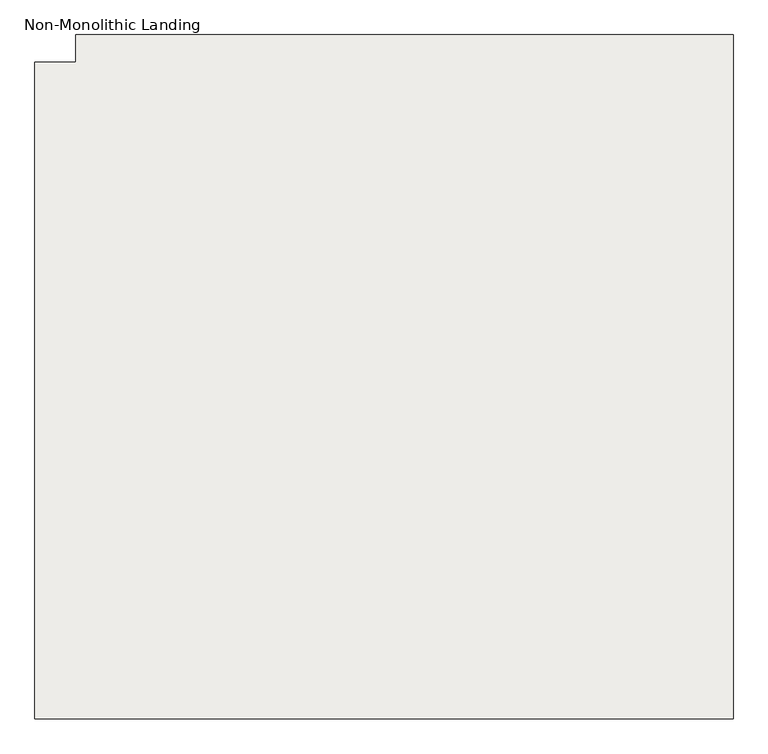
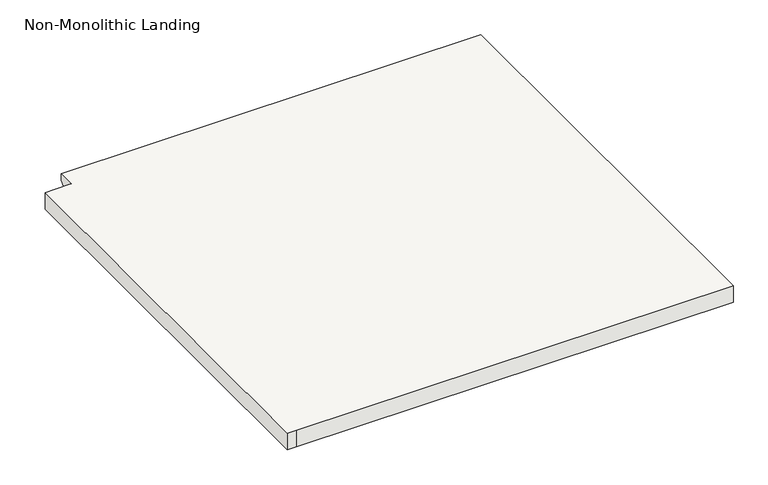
"""IFC4 building model written with IfcOpenShell, lengths in millimetres: slab geometry, Non-Monolithic Landing."""

from ifc_helpers import new_model, si_unit, origin, place, context, project, spatial, faceted_brep, source, transform, mapped, element, save


def non_monolithic_landing_3a4293be(model_context):
    return source(origin(), model_context, "Body", "Brep", [
        faceted_brep([(18450.2726301, 6379.9746638, 7296.15), (18450.2726301, 6379.9746638, 7315.2), (19669.4726301, 6379.9746638, 7315.2), (19669.4726301, 6379.9746638, 7296.15), (18450.2726301, 6354.5746638, 7270.75), (19669.4726301, 6354.5746638, 7270.75), (18450.2726301, 6329.1746638, 7315.2), (18399.4726301, 6329.1746638, 7315.2), (18374.0726301, 6329.1746638, 7315.2), (18374.0726301, 5109.9746638, 7315.2), (18399.4726301, 5109.9746638, 7315.2), (19669.4726301, 5109.9746638, 7315.2), (18450.2726301, 6354.5746638, 7264.4), (19669.4726301, 6354.5746638, 7264.4), (19669.4726301, 5109.9746638, 7264.4), (18399.4726301, 5109.9746638, 7264.4), (18374.0726301, 5109.9746638, 7264.4), (18374.0726301, 6329.1746638, 7264.4), (18399.4726301, 6329.1746638, 7264.4), (18450.2726301, 6329.1746638, 7264.4)], [[[0, 1, 2, 3]], [[4, 0, 3, 5]], [[6, 7, 8, 9, 10, 11, 2, 1]], [[12, 13, 14, 15, 16, 17, 18, 19]], [[13, 12, 4, 5]], [[6, 1, 0, 4, 12, 19]], [[7, 6, 19, 18]], [[8, 7, 18, 17]], [[9, 8, 17, 16]], [[10, 9, 16, 15]], [[11, 10, 15, 14]], [[2, 11, 14, 13, 5, 3]]]),
    ])


if __name__ == "__main__":
    model = new_model("IFC4")
    model_context = context("Model", 3, world=origin())
    ifc_project = project(units=[si_unit("LENGTHUNIT", "METRE", prefix="MILLI")], contexts=[model_context])
    site = spatial("IfcSite", under=ifc_project)
    building = spatial("IfcBuilding", under=site)
    placement = place(None, origin())
    non_monolithic_landing_shape = non_monolithic_landing_3a4293be(model_context)
    element("IfcSlab", 1, ObjectType="Non-Monolithic Landing", at=placement, inside=building, context=model_context, shape_type="MappedRepresentation", body=[
        mapped(non_monolithic_landing_shape, transform((0.0, 0.0, 0.0), x_axis=(1.0, 0.0, 0.0), y_axis=(0.0, 1.0, 0.0), z_axis=(0.0, 0.0, 1.0))),
    ])
    save(model, "model.ifc")
